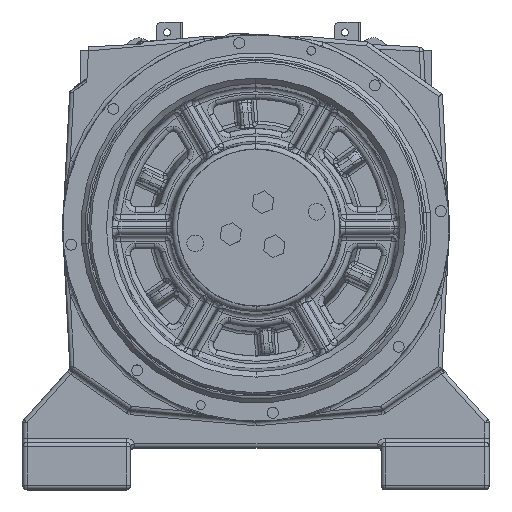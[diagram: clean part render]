
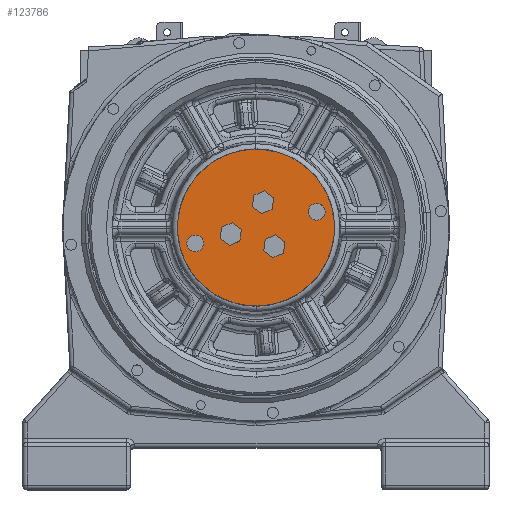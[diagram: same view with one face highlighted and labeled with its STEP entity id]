
A CAD part, top view. The second image highlights one B-rep face of the part: STEP entity #123786.
In plain terms, the highlighted planar face has unit normal (0, 0, 1).
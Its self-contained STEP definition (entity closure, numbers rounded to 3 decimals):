
#363 = CARTESIAN_POINT ( 'NONE',  ( -133.185, 3.076, 1195.906 ) ) ;
#449 = DIRECTION ( 'NONE',  ( 0., 0., 1. ) ) ;
#729 = EDGE_CURVE ( 'NONE', #55117, #29646, #121669, .T. ) ;
#1045 = CARTESIAN_POINT ( 'NONE',  ( -131.173, -4.667, 1195.906 ) ) ;
#1214 = VERTEX_POINT ( 'NONE', #114002 ) ;
#2792 = CARTESIAN_POINT ( 'NONE',  ( -131.173, -4.667, 1195.906 ) ) ;
#4449 = FACE_OUTER_BOUND ( 'NONE', #22973, .T. ) ;
#4507 = AXIS2_PLACEMENT_3D ( 'NONE', #25486, #120563, #111262 ) ;
#4781 = ORIENTED_EDGE ( 'NONE', *, *, #52595, .T. ) ;
#5202 = VERTEX_POINT ( 'NONE', #43494 ) ;
#5390 = EDGE_CURVE ( 'NONE', #18182, #1214, #119394, .T. ) ;
#6134 = VERTEX_POINT ( 'NONE', #92236 ) ;
#6401 = CIRCLE ( 'NONE', #13207, 8. ) ;
#11785 = DIRECTION ( 'NONE',  ( -0.252, 0.968, 0. ) ) ;
#13207 = AXIS2_PLACEMENT_3D ( 'NONE', #37879, #81455, #27155 ) ;
#14591 = EDGE_CURVE ( 'NONE', #132878, #5202, #30784, .T. ) ;
#15852 = DIRECTION ( 'NONE',  ( 0., 0., 1. ) ) ;
#16346 = CIRCLE ( 'NONE', #112216, 75. ) ;
#18182 = VERTEX_POINT ( 'NONE', #106976 ) ;
#18684 = EDGE_CURVE ( 'NONE', #73558, #6134, #55937, .T. ) ;
#21213 = CARTESIAN_POINT ( 'NONE',  ( -172.913, 6.855, 1195.906 ) ) ;
#22799 = EDGE_CURVE ( 'NONE', #100831, #23266, #29302, .T. ) ;
#22973 = EDGE_LOOP ( 'NONE', ( #80660, #121526 ) ) ;
#23266 = VERTEX_POINT ( 'NONE', #134736 ) ;
#25084 = AXIS2_PLACEMENT_3D ( 'NONE', #37269, #15852, #60057 ) ;
#25486 = CARTESIAN_POINT ( 'NONE',  ( -142.065, 37.243, 1195.906 ) ) ;
#27155 = DIRECTION ( 'NONE',  ( -0.252, 0.968, 0. ) ) ;
#29302 = CIRCLE ( 'NONE', #109190, 8. ) ;
#29408 = DIRECTION ( 'NONE',  ( -0.252, 0.968, 0. ) ) ;
#29646 = VERTEX_POINT ( 'NONE', #36943 ) ;
#30140 = ORIENTED_EDGE ( 'NONE', *, *, #22799, .T. ) ;
#30784 = CIRCLE ( 'NONE', #67245, 8. ) ;
#31092 = EDGE_CURVE ( 'NONE', #29646, #55117, #16346, .T. ) ;
#32587 = DIRECTION ( 'NONE',  ( -0.252, 0.968, 0. ) ) ;
#34069 = ORIENTED_EDGE ( 'NONE', *, *, #134302, .T. ) ;
#35399 = AXIS2_PLACEMENT_3D ( 'NONE', #62200, #50163, #29408 ) ;
#36943 = CARTESIAN_POINT ( 'NONE',  ( -129.852, -59.445, 1195.906 ) ) ;
#37269 = CARTESIAN_POINT ( 'NONE',  ( -221.306, -5.721, 1195.906 ) ) ;
#37879 = CARTESIAN_POINT ( 'NONE',  ( -206.788, -1.948, 1195.906 ) ) ;
#41265 = DIRECTION ( 'NONE',  ( -0.252, 0.968, 0. ) ) ;
#43494 = CARTESIAN_POINT ( 'NONE',  ( -129.161, -12.409, 1195.906 ) ) ;
#45960 = AXIS2_PLACEMENT_3D ( 'NONE', #108950, #53914, #66687 ) ;
#48671 = FACE_BOUND ( 'NONE', #49475, .T. ) ;
#49475 = EDGE_LOOP ( 'NONE', ( #110512, #75139 ) ) ;
#50163 = DIRECTION ( 'NONE',  ( 0., 0., -1. ) ) ;
#50897 = AXIS2_PLACEMENT_3D ( 'NONE', #72675, #71955, #59134 ) ;
#51886 = CARTESIAN_POINT ( 'NONE',  ( -204.776, -9.691, 1195.906 ) ) ;
#52455 = EDGE_LOOP ( 'NONE', ( #34069, #125135 ) ) ;
#52595 = EDGE_CURVE ( 'NONE', #54885, #140007, #100943, .T. ) ;
#53914 = DIRECTION ( 'NONE',  ( 0., 0., -1. ) ) ;
#54885 = VERTEX_POINT ( 'NONE', #51886 ) ;
#55117 = VERTEX_POINT ( 'NONE', #70337 ) ;
#55937 = CIRCLE ( 'NONE', #35399, 8. ) ;
#57026 = DIRECTION ( 'NONE',  ( -0.252, 0.968, 0. ) ) ;
#57447 = AXIS2_PLACEMENT_3D ( 'NONE', #1045, #109666, #11785 ) ;
#57963 = FACE_BOUND ( 'NONE', #118211, .T. ) ;
#59134 = DIRECTION ( 'NONE',  ( -0.252, 0.968, 0. ) ) ;
#60057 = DIRECTION ( 'NONE',  ( -0.252, 0.968, 0. ) ) ;
#61824 = EDGE_CURVE ( 'NONE', #140007, #54885, #6401, .T. ) ;
#62200 = CARTESIAN_POINT ( 'NONE',  ( -90.646, 28.236, 1195.906 ) ) ;
#63275 = ORIENTED_EDGE ( 'NONE', *, *, #18684, .T. ) ;
#65767 = CIRCLE ( 'NONE', #120638, 8. ) ;
#66687 = DIRECTION ( 'NONE',  ( -0.252, 0.968, 0. ) ) ;
#66932 = EDGE_CURVE ( 'NONE', #23266, #100831, #65767, .T. ) ;
#67245 = AXIS2_PLACEMENT_3D ( 'NONE', #2792, #132841, #57026 ) ;
#70337 = CARTESIAN_POINT ( 'NONE',  ( -167.582, 85.732, 1195.906 ) ) ;
#70844 = CARTESIAN_POINT ( 'NONE',  ( -206.788, -1.948, 1195.906 ) ) ;
#71955 = DIRECTION ( 'NONE',  ( 0., 0., -1. ) ) ;
#72675 = CARTESIAN_POINT ( 'NONE',  ( -142.065, 37.243, 1195.906 ) ) ;
#73227 = EDGE_LOOP ( 'NONE', ( #96956, #63275 ) ) ;
#73558 = VERTEX_POINT ( 'NONE', #129398 ) ;
#73591 = AXIS2_PLACEMENT_3D ( 'NONE', #70844, #114480, #136676 ) ;
#75094 = DIRECTION ( 'NONE',  ( 0., 0., -1. ) ) ;
#75139 = ORIENTED_EDGE ( 'NONE', *, *, #14591, .T. ) ;
#75458 = CARTESIAN_POINT ( 'NONE',  ( -148.717, 13.144, 1195.906 ) ) ;
#78743 = FACE_BOUND ( 'NONE', #79670, .T. ) ;
#79670 = EDGE_LOOP ( 'NONE', ( #4781, #112126 ) ) ;
#79766 = EDGE_CURVE ( 'NONE', #6134, #73558, #107572, .T. ) ;
#80660 = ORIENTED_EDGE ( 'NONE', *, *, #729, .T. ) ;
#81455 = DIRECTION ( 'NONE',  ( 0., 0., -1. ) ) ;
#83696 = CARTESIAN_POINT ( 'NONE',  ( -208.8, 5.795, 1195.906 ) ) ;
#87359 = AXIS2_PLACEMENT_3D ( 'NONE', #75458, #449, #32587 ) ;
#89964 = ORIENTED_EDGE ( 'NONE', *, *, #66932, .T. ) ;
#90904 = PLANE ( 'NONE',  #25084 ) ;
#92236 = CARTESIAN_POINT ( 'NONE',  ( -88.634, 20.493, 1195.906 ) ) ;
#96956 = ORIENTED_EDGE ( 'NONE', *, *, #79766, .T. ) ;
#100831 = VERTEX_POINT ( 'NONE', #113565 ) ;
#100943 = CIRCLE ( 'NONE', #73591, 8. ) ;
#106022 = CARTESIAN_POINT ( 'NONE',  ( -148.717, 13.144, 1195.906 ) ) ;
#106976 = CARTESIAN_POINT ( 'NONE',  ( -144.077, 44.985, 1195.906 ) ) ;
#107572 = CIRCLE ( 'NONE', #45960, 8. ) ;
#108950 = CARTESIAN_POINT ( 'NONE',  ( -90.646, 28.236, 1195.906 ) ) ;
#109190 = AXIS2_PLACEMENT_3D ( 'NONE', #129445, #75094, #118731 ) ;
#109666 = DIRECTION ( 'NONE',  ( 0., 0., -1. ) ) ;
#110512 = ORIENTED_EDGE ( 'NONE', *, *, #126265, .T. ) ;
#111262 = DIRECTION ( 'NONE',  ( -0.252, 0.968, 0. ) ) ;
#112126 = ORIENTED_EDGE ( 'NONE', *, *, #61824, .T. ) ;
#112216 = AXIS2_PLACEMENT_3D ( 'NONE', #106022, #138942, #127511 ) ;
#113565 = CARTESIAN_POINT ( 'NONE',  ( -174.925, 14.598, 1195.906 ) ) ;
#114002 = CARTESIAN_POINT ( 'NONE',  ( -140.052, 29.5, 1195.906 ) ) ;
#114436 = FACE_BOUND ( 'NONE', #52455, .T. ) ;
#114480 = DIRECTION ( 'NONE',  ( 0., 0., -1. ) ) ;
#118211 = EDGE_LOOP ( 'NONE', ( #89964, #30140 ) ) ;
#118731 = DIRECTION ( 'NONE',  ( -0.252, 0.968, 0. ) ) ;
#119121 = CIRCLE ( 'NONE', #57447, 8. ) ;
#119394 = CIRCLE ( 'NONE', #50897, 8. ) ;
#120563 = DIRECTION ( 'NONE',  ( 0., 0., -1. ) ) ;
#120638 = AXIS2_PLACEMENT_3D ( 'NONE', #21213, #139205, #41265 ) ;
#121526 = ORIENTED_EDGE ( 'NONE', *, *, #31092, .T. ) ;
#121669 = CIRCLE ( 'NONE', #87359, 75. ) ;
#123786 = ADVANCED_FACE ( 'NONE', ( #78743, #136626, #57963, #114436, #48671, #4449 ), #90904, .T. ) ;
#125135 = ORIENTED_EDGE ( 'NONE', *, *, #5390, .T. ) ;
#126265 = EDGE_CURVE ( 'NONE', #5202, #132878, #119121, .T. ) ;
#127511 = DIRECTION ( 'NONE',  ( -0.252, 0.968, 0. ) ) ;
#129398 = CARTESIAN_POINT ( 'NONE',  ( -92.658, 35.979, 1195.906 ) ) ;
#129445 = CARTESIAN_POINT ( 'NONE',  ( -172.913, 6.855, 1195.906 ) ) ;
#132841 = DIRECTION ( 'NONE',  ( 0., 0., -1. ) ) ;
#132878 = VERTEX_POINT ( 'NONE', #363 ) ;
#134302 = EDGE_CURVE ( 'NONE', #1214, #18182, #136817, .T. ) ;
#134736 = CARTESIAN_POINT ( 'NONE',  ( -170.901, -0.887, 1195.906 ) ) ;
#136626 = FACE_BOUND ( 'NONE', #73227, .T. ) ;
#136676 = DIRECTION ( 'NONE',  ( -0.252, 0.968, 0. ) ) ;
#136817 = CIRCLE ( 'NONE', #4507, 8. ) ;
#138942 = DIRECTION ( 'NONE',  ( 0., 0., 1. ) ) ;
#139205 = DIRECTION ( 'NONE',  ( 0., 0., -1. ) ) ;
#140007 = VERTEX_POINT ( 'NONE', #83696 ) ;
